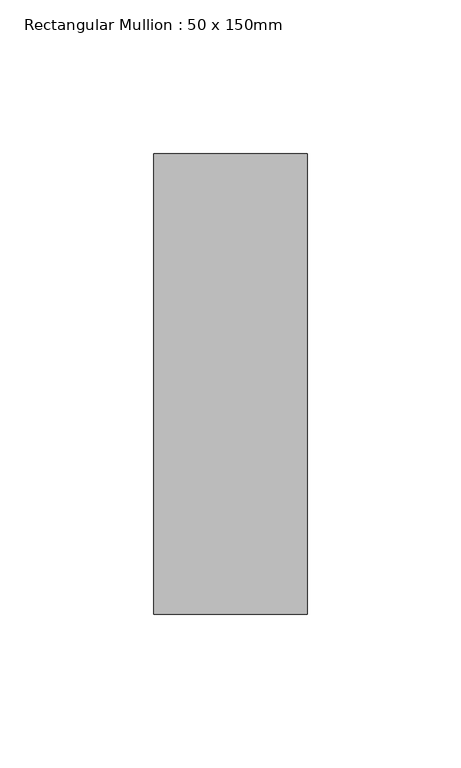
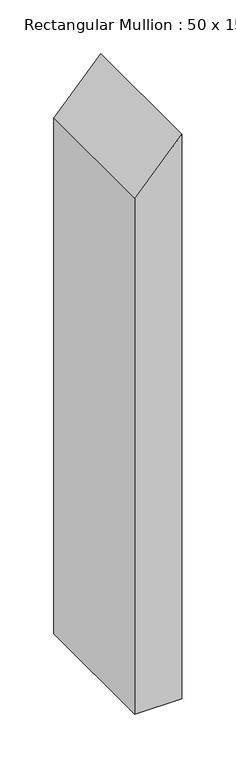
"""IFC4 building model written with IfcOpenShell, lengths in millimetres: member geometry, Rectangular Mullion : 50 x 150mm."""

from ifc_helpers import new_model, si_unit, frame, origin, place, context, project, spatial, polyline, outline, extrude, source, transform, mapped, element, save


def rectangular_mullion_50_x_150mm_c9e778bd(model_context):
    return source(origin(), model_context, "Body", "SweptSolid", [
        extrude(outline(polyline([(0.0, 0.0), (-55.2796073, -50.0), (-638.4814106, -50.0), (-638.4814106, 0.0), (0.0, 0.0)])), frame((0.0, -75.0, 0.0), z_axis=(0.0, 1.0, 0.0), x_axis=(0.0, 0.0, 1.0)), (0.0, 0.0, 1.0), 150.0),
    ])


if __name__ == "__main__":
    model = new_model("IFC4")
    model_context = context("Model", 3, world=origin())
    ifc_project = project(units=[si_unit("LENGTHUNIT", "METRE", prefix="MILLI")], contexts=[model_context])
    site = spatial("IfcSite", under=ifc_project)
    building = spatial("IfcBuilding", under=site)
    placement = place(None, origin())
    rectangular_mullion_50_x_150mm_shape = rectangular_mullion_50_x_150mm_c9e778bd(model_context)
    element("IfcMember", 1, ObjectType="Rectangular Mullion : 50 x 150mm", at=placement, inside=building, context=model_context, shape_type="MappedRepresentation", body=[
        mapped(rectangular_mullion_50_x_150mm_shape, transform((0.0, 0.0, 0.0), x_axis=(1.0, 0.0, 0.0), y_axis=(0.0, 1.0, 0.0), z_axis=(0.0, 0.0, 1.0))),
    ])
    save(model, "model.ifc")
